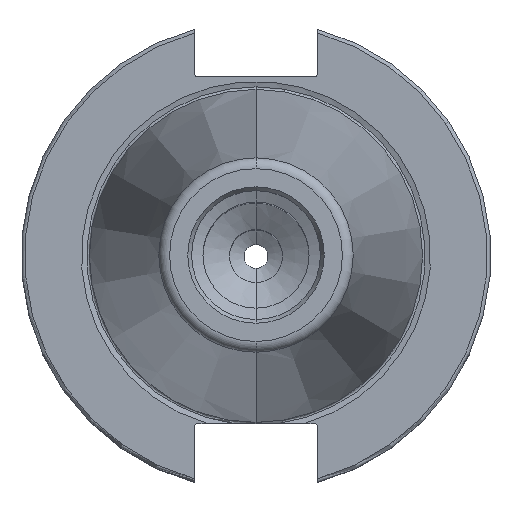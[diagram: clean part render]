
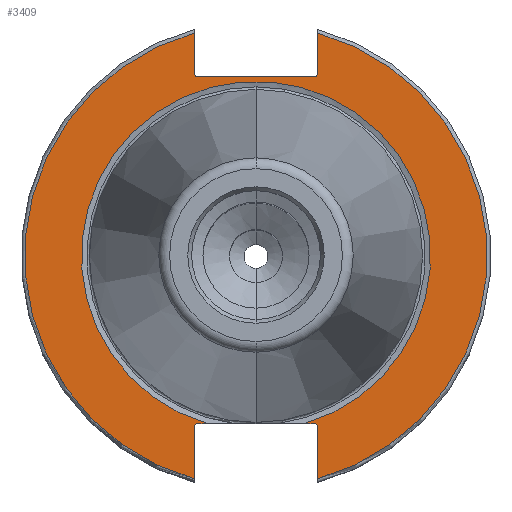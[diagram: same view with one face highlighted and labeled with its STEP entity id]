
A CAD part, top view. The second image highlights one B-rep face of the part: STEP entity #3409.
In plain terms, the highlighted planar face has unit normal (0, 0, 1).
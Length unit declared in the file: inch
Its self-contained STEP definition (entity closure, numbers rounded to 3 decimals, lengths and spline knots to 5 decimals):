
#20 = DIRECTION ( 'NONE',  ( 0., 0., -1. ) ) ;
#29 = DIRECTION ( 'NONE',  ( 0., 0., -1. ) ) ;
#73 = EDGE_CURVE ( 'NONE', #3370, #189, #1276, .T. ) ;
#126 = CARTESIAN_POINT ( 'NONE',  ( 1.9075, -1.3825, -0.125 ) ) ;
#189 = VERTEX_POINT ( 'NONE', #2984 ) ;
#234 = DIRECTION ( 'NONE',  ( 0., 0., -1. ) ) ;
#266 = LINE ( 'NONE', #3209, #1549 ) ;
#277 = EDGE_CURVE ( 'NONE', #3462, #4283, #1944, .T. ) ;
#320 = VERTEX_POINT ( 'NONE', #3581 ) ;
#321 = CARTESIAN_POINT ( 'NONE',  ( -0.40209, -1.3825, -0.125 ) ) ;
#331 = VERTEX_POINT ( 'NONE', #4727 ) ;
#412 = LINE ( 'NONE', #4561, #4124 ) ;
#464 = VERTEX_POINT ( 'NONE', #593 ) ;
#478 = ORIENTED_EDGE ( 'NONE', *, *, #2742, .T. ) ;
#482 = DIRECTION ( 'NONE',  ( 0., 1., 0. ) ) ;
#593 = CARTESIAN_POINT ( 'NONE',  ( 0.51, 1.5075, -0.125 ) ) ;
#725 = VERTEX_POINT ( 'NONE', #1044 ) ;
#738 = ORIENTED_EDGE ( 'NONE', *, *, #2319, .T. ) ;
#743 = CARTESIAN_POINT ( 'NONE',  ( 0., 0., -0.125 ) ) ;
#754 = AXIS2_PLACEMENT_3D ( 'NONE', #743, #1806, #3300 ) ;
#777 = CARTESIAN_POINT ( 'NONE',  ( 0.51, -1.83806, -0.125 ) ) ;
#912 = CARTESIAN_POINT ( 'NONE',  ( -0.48, -1.3825, -0.125 ) ) ;
#950 = DIRECTION ( 'NONE',  ( 1., 0., 0. ) ) ;
#988 = CARTESIAN_POINT ( 'NONE',  ( 0.48, 1.5075, -0.125 ) ) ;
#994 = VECTOR ( 'NONE', #2317, 39.37008 ) ;
#1004 = EDGE_CURVE ( 'NONE', #4269, #3628, #2275, .T. ) ;
#1044 = CARTESIAN_POINT ( 'NONE',  ( 0.40209, -1.3825, -0.125 ) ) ;
#1158 = CARTESIAN_POINT ( 'NONE',  ( 0.51, 1.83806, -0.125 ) ) ;
#1213 = EDGE_LOOP ( 'NONE', ( #3802, #1755, #4414, #3962, #1922, #478, #3436, #3020, #738, #1969, #1489, #4800, #1591, #3895 ) ) ;
#1276 = LINE ( 'NONE', #4289, #4604 ) ;
#1335 = CARTESIAN_POINT ( 'NONE',  ( 0.51, 0., -0.125 ) ) ;
#1372 = CIRCLE ( 'NONE', #2701, 0.03 ) ;
#1415 = AXIS2_PLACEMENT_3D ( 'NONE', #1810, #20, #4513 ) ;
#1489 = ORIENTED_EDGE ( 'NONE', *, *, #2025, .F. ) ;
#1538 = DIRECTION ( 'NONE',  ( 0., -1., 0. ) ) ;
#1549 = VECTOR ( 'NONE', #3598, 39.37008 ) ;
#1569 = VERTEX_POINT ( 'NONE', #3264 ) ;
#1591 = ORIENTED_EDGE ( 'NONE', *, *, #73, .F. ) ;
#1635 = VERTEX_POINT ( 'NONE', #321 ) ;
#1736 = CARTESIAN_POINT ( 'NONE',  ( -0.51, 1.5075, -0.125 ) ) ;
#1755 = ORIENTED_EDGE ( 'NONE', *, *, #3633, .F. ) ;
#1759 = CIRCLE ( 'NONE', #4519, 0.03 ) ;
#1806 = DIRECTION ( 'NONE',  ( 0., 0., -1. ) ) ;
#1810 = CARTESIAN_POINT ( 'NONE',  ( -0.48, -1.4125, -0.125 ) ) ;
#1813 = VECTOR ( 'NONE', #482, 39.37008 ) ;
#1914 = DIRECTION ( 'NONE',  ( 0., 0., -1. ) ) ;
#1922 = ORIENTED_EDGE ( 'NONE', *, *, #3305, .T. ) ;
#1927 = CIRCLE ( 'NONE', #2958, 0.03 ) ;
#1940 = CARTESIAN_POINT ( 'NONE',  ( 0., 0., -0.125 ) ) ;
#1944 = LINE ( 'NONE', #3438, #994 ) ;
#1969 = ORIENTED_EDGE ( 'NONE', *, *, #3916, .F. ) ;
#2025 = EDGE_CURVE ( 'NONE', #464, #4005, #4611, .T. ) ;
#2098 = CIRCLE ( 'NONE', #754, 1.9075 ) ;
#2275 = CIRCLE ( 'NONE', #1415, 0.03 ) ;
#2317 = DIRECTION ( 'NONE',  ( 0., -1., 0. ) ) ;
#2319 = EDGE_CURVE ( 'NONE', #320, #3229, #412, .T. ) ;
#2433 = CARTESIAN_POINT ( 'NONE',  ( 0., 0., -0.125 ) ) ;
#2461 = FACE_OUTER_BOUND ( 'NONE', #1213, .T. ) ;
#2513 = CARTESIAN_POINT ( 'NONE',  ( -0.48, 1.4775, -0.125 ) ) ;
#2546 = EDGE_CURVE ( 'NONE', #3370, #4283, #1759, .T. ) ;
#2582 = CARTESIAN_POINT ( 'NONE',  ( 1.9075, 0., -0.125 ) ) ;
#2587 = LINE ( 'NONE', #4121, #3827 ) ;
#2658 = CARTESIAN_POINT ( 'NONE',  ( 0.48, -1.4125, -0.125 ) ) ;
#2701 = AXIS2_PLACEMENT_3D ( 'NONE', #988, #3671, #4097 ) ;
#2734 = AXIS2_PLACEMENT_3D ( 'NONE', #2433, #234, #3564 ) ;
#2742 = EDGE_CURVE ( 'NONE', #1635, #725, #3649, .T. ) ;
#2778 = EDGE_CURVE ( 'NONE', #1569, #320, #1927, .T. ) ;
#2785 = DIRECTION ( 'NONE',  ( 1., 0., 0. ) ) ;
#2898 = EDGE_CURVE ( 'NONE', #725, #1569, #4676, .T. ) ;
#2958 = AXIS2_PLACEMENT_3D ( 'NONE', #2658, #1914, #4160 ) ;
#2984 = CARTESIAN_POINT ( 'NONE',  ( 0.48, 1.4775, -0.125 ) ) ;
#3020 = ORIENTED_EDGE ( 'NONE', *, *, #2778, .T. ) ;
#3036 = DIRECTION ( 'NONE',  ( 0., 1., 0. ) ) ;
#3132 = CIRCLE ( 'NONE', #2734, 1.9075 ) ;
#3195 = DIRECTION ( 'NONE',  ( 0., -1., 0. ) ) ;
#3209 = CARTESIAN_POINT ( 'NONE',  ( 1.9075, -1.3825, -0.125 ) ) ;
#3229 = VERTEX_POINT ( 'NONE', #777 ) ;
#3264 = CARTESIAN_POINT ( 'NONE',  ( 0.48, -1.3825, -0.125 ) ) ;
#3300 = DIRECTION ( 'NONE',  ( 0., 1., 0. ) ) ;
#3305 = EDGE_CURVE ( 'NONE', #3628, #1635, #266, .T. ) ;
#3370 = VERTEX_POINT ( 'NONE', #2513 ) ;
#3393 = CARTESIAN_POINT ( 'NONE',  ( -0.51, 1.83806, -0.125 ) ) ;
#3409 = ADVANCED_FACE ( 'NONE', ( #2461 ), #3669, .T. ) ;
#3436 = ORIENTED_EDGE ( 'NONE', *, *, #2898, .T. ) ;
#3438 = CARTESIAN_POINT ( 'NONE',  ( -0.51, 0., -0.125 ) ) ;
#3462 = VERTEX_POINT ( 'NONE', #3393 ) ;
#3564 = DIRECTION ( 'NONE',  ( 0., 1., 0. ) ) ;
#3581 = CARTESIAN_POINT ( 'NONE',  ( 0.51, -1.4125, -0.125 ) ) ;
#3598 = DIRECTION ( 'NONE',  ( 1., 0., 0. ) ) ;
#3628 = VERTEX_POINT ( 'NONE', #912 ) ;
#3633 = EDGE_CURVE ( 'NONE', #331, #3462, #3132, .T. ) ;
#3649 = CIRCLE ( 'NONE', #4209, 1.43979 ) ;
#3669 = PLANE ( 'NONE',  #4469 ) ;
#3671 = DIRECTION ( 'NONE',  ( 0., 0., -1. ) ) ;
#3792 = DIRECTION ( 'NONE',  ( 0., -1., 0. ) ) ;
#3802 = ORIENTED_EDGE ( 'NONE', *, *, #277, .F. ) ;
#3827 = VECTOR ( 'NONE', #3036, 39.37008 ) ;
#3895 = ORIENTED_EDGE ( 'NONE', *, *, #2546, .T. ) ;
#3916 = EDGE_CURVE ( 'NONE', #4005, #3229, #2098, .T. ) ;
#3962 = ORIENTED_EDGE ( 'NONE', *, *, #1004, .T. ) ;
#3965 = CARTESIAN_POINT ( 'NONE',  ( -0.48, 1.5075, -0.125 ) ) ;
#4005 = VERTEX_POINT ( 'NONE', #1158 ) ;
#4097 = DIRECTION ( 'NONE',  ( 0., -1., 0. ) ) ;
#4121 = CARTESIAN_POINT ( 'NONE',  ( -0.51, 0., -0.125 ) ) ;
#4124 = VECTOR ( 'NONE', #1538, 39.37008 ) ;
#4142 = DIRECTION ( 'NONE',  ( 0., 0., 1. ) ) ;
#4160 = DIRECTION ( 'NONE',  ( 0., -1., 0. ) ) ;
#4209 = AXIS2_PLACEMENT_3D ( 'NONE', #1940, #29, #4233 ) ;
#4228 = CARTESIAN_POINT ( 'NONE',  ( -0.51, -1.4125, -0.125 ) ) ;
#4233 = DIRECTION ( 'NONE',  ( 0., 1., 0. ) ) ;
#4269 = VERTEX_POINT ( 'NONE', #4228 ) ;
#4283 = VERTEX_POINT ( 'NONE', #1736 ) ;
#4289 = CARTESIAN_POINT ( 'NONE',  ( 1.9075, 1.4775, -0.125 ) ) ;
#4341 = EDGE_CURVE ( 'NONE', #331, #4269, #2587, .T. ) ;
#4414 = ORIENTED_EDGE ( 'NONE', *, *, #4341, .T. ) ;
#4449 = VECTOR ( 'NONE', #950, 39.37008 ) ;
#4469 = AXIS2_PLACEMENT_3D ( 'NONE', #2582, #4142, #3792 ) ;
#4513 = DIRECTION ( 'NONE',  ( 0., -1., 0. ) ) ;
#4519 = AXIS2_PLACEMENT_3D ( 'NONE', #3965, #4682, #3195 ) ;
#4561 = CARTESIAN_POINT ( 'NONE',  ( 0.51, 0., -0.125 ) ) ;
#4590 = EDGE_CURVE ( 'NONE', #464, #189, #1372, .T. ) ;
#4604 = VECTOR ( 'NONE', #2785, 39.37008 ) ;
#4611 = LINE ( 'NONE', #1335, #1813 ) ;
#4676 = LINE ( 'NONE', #126, #4449 ) ;
#4682 = DIRECTION ( 'NONE',  ( 0., 0., -1. ) ) ;
#4727 = CARTESIAN_POINT ( 'NONE',  ( -0.51, -1.83806, -0.125 ) ) ;
#4800 = ORIENTED_EDGE ( 'NONE', *, *, #4590, .T. ) ;
